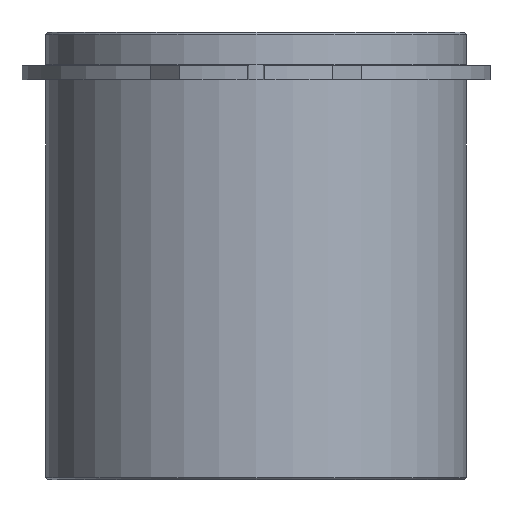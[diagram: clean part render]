
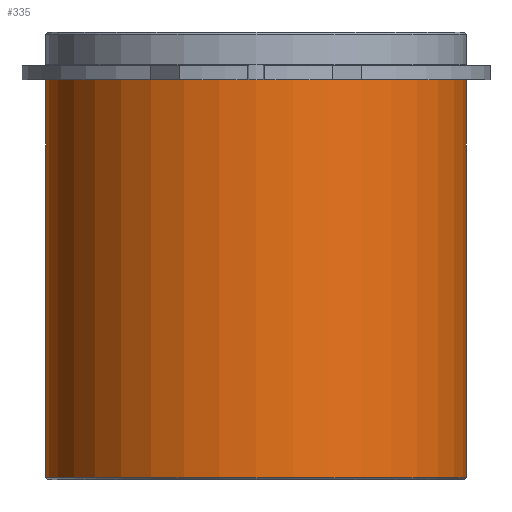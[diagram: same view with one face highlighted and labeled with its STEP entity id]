
A CAD part, front view. The second image highlights one B-rep face of the part: STEP entity #335.
In plain terms, the highlighted cylindrical face has radius 29.625 mm (diameter 59.25 mm), a partial arc.
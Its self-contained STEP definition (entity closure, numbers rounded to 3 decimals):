
#294=CARTESIAN_POINT('',(0.0,0.,-28.));
#295=DIRECTION('',(0.0,0.,1.0));
#296=DIRECTION('',(1.0,0.0,0.0));
#297=AXIS2_PLACEMENT_3D('',#294,#295,#296);
#298=CYLINDRICAL_SURFACE('',#297,29.625);
#299=CARTESIAN_POINT('',(29.625,0.0,0.0));
#300=VERTEX_POINT('',#299);
#301=CARTESIAN_POINT('',(29.625,0.,-56.0));
#302=VERTEX_POINT('',#301);
#303=CARTESIAN_POINT('',(29.625,0.0,0.0));
#304=DIRECTION('',(0.0,0.0,-1.0));
#305=VECTOR('',#304,56.0);
#306=LINE('',#303,#305);
#307=EDGE_CURVE('',#300,#302,#306,.T.);
#308=ORIENTED_EDGE('',*,*,#307,.F.);
#309=CARTESIAN_POINT('',(-29.625,0.,0.0));
#310=VERTEX_POINT('',#309);
#311=CARTESIAN_POINT('',(0.0,0.0,0.0));
#312=DIRECTION('',(0.0,0.0,1.0));
#313=DIRECTION('',(1.0,0.0,0.0));
#314=AXIS2_PLACEMENT_3D('',#311,#312,#313);
#315=CIRCLE('',#314,29.625);
#316=EDGE_CURVE('',#310,#300,#315,.T.);
#317=ORIENTED_EDGE('',*,*,#316,.F.);
#318=CARTESIAN_POINT('',(-29.625,0.,-56.));
#319=VERTEX_POINT('',#318);
#320=CARTESIAN_POINT('',(-29.625,0.,0.0));
#321=DIRECTION('',(0.0,0.0,-1.0));
#322=VECTOR('',#321,56.);
#323=LINE('',#320,#322);
#324=EDGE_CURVE('',#310,#319,#323,.T.);
#325=ORIENTED_EDGE('',*,*,#324,.T.);
#326=CARTESIAN_POINT('',(0.0,0.,-56.0));
#327=DIRECTION('',(0.0,0.0,1.0));
#328=DIRECTION('',(1.0,0.0,0.0));
#329=AXIS2_PLACEMENT_3D('',#326,#327,#328);
#330=CIRCLE('',#329,29.625);
#331=EDGE_CURVE('',#319,#302,#330,.T.);
#332=ORIENTED_EDGE('',*,*,#331,.T.);
#333=EDGE_LOOP('',(#308,#317,#325,#332));
#334=FACE_OUTER_BOUND('',#333,.T.);
#335=ADVANCED_FACE('',(#334),#298,.T.);
